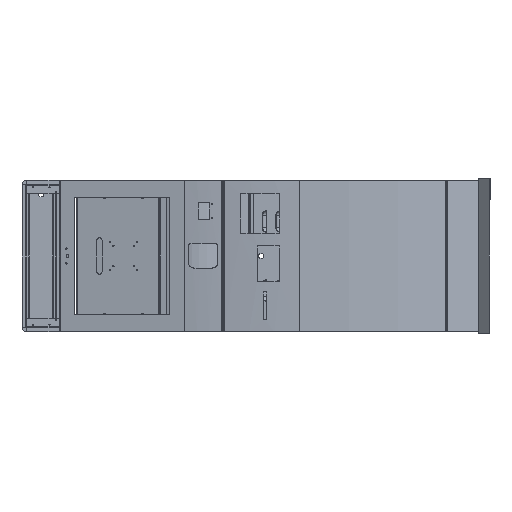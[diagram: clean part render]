
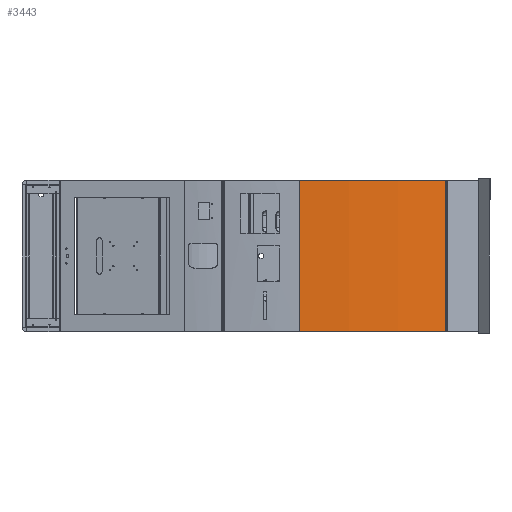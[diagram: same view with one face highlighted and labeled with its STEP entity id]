
A CAD part, left-side view. The second image highlights one B-rep face of the part: STEP entity #3443.
In plain terms, the highlighted cylindrical face has radius 1981.2 mm (diameter 3962.4 mm), a partial arc.
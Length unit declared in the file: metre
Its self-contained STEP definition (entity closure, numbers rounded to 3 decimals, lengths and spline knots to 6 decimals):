
#3443=ADVANCED_FACE('0:439780',(#9908),#9909,.T.);
#9908=FACE_OUTER_BOUND('',#20427,.T.);
#9909=CYLINDRICAL_SURFACE('',#20428,1.9812);
#20427=EDGE_LOOP('',(#44556,#44557,#44558,#44559));
#20428=AXIS2_PLACEMENT_3D('',#44560,#44561,#44562);
#44556=ORIENTED_EDGE('',*,*,#57486,.F.);
#44557=ORIENTED_EDGE('',*,*,#57487,.T.);
#44558=ORIENTED_EDGE('',*,*,#57488,.T.);
#44559=ORIENTED_EDGE('',*,*,#57489,.F.);
#44560=CARTESIAN_POINT('',(1.649017,-0.15168,-0.487578));
#44561=DIRECTION('',(0.0,0.0,-1.0));
#44562=DIRECTION('',(1.0,0.0,0.0));
#57486=EDGE_CURVE('',#70949,#70950,#70951,.T.);
#57487=EDGE_CURVE('0:439945',#70949,#70952,#70953,.T.);
#57488=EDGE_CURVE('0:440071',#70952,#70954,#70955,.T.);
#57489=EDGE_CURVE('0:439891',#70950,#70954,#70956,.T.);
#70949=VERTEX_POINT('',#93366);
#70950=VERTEX_POINT('',#93367);
#70951=LINE('',#93368,#93369);
#70952=VERTEX_POINT('',#93370);
#70953=CIRCLE('',#93371,1.9812);
#70954=VERTEX_POINT('',#93372);
#70955=LINE('',#93373,#93374);
#70956=CIRCLE('',#93375,1.9812);
#93366=CARTESIAN_POINT('',(-0.332183,-0.15168,-0.487578));
#93367=CARTESIAN_POINT('',(-0.332183,-0.15168,0.062422));
#93368=CARTESIAN_POINT('',(-0.332183,-0.15168,-0.212578));
#93369=VECTOR('',#108506,1.0);
#93370=CARTESIAN_POINT('',(-0.260742,-0.678911,-0.487578));
#93371=AXIS2_PLACEMENT_3D('',#108507,#108508,#108509);
#93372=CARTESIAN_POINT('',(-0.260742,-0.678911,0.062422));
#93373=CARTESIAN_POINT('',(-0.260742,-0.678911,-0.487578));
#93374=VECTOR('',#108510,1.0);
#93375=AXIS2_PLACEMENT_3D('',#108511,#108512,#108513);
#108506=DIRECTION('',(-0.0,-0.0,1.0));
#108507=CARTESIAN_POINT('',(1.649017,-0.15168,-0.487578));
#108508=DIRECTION('',(0.0,0.0,1.0));
#108509=DIRECTION('',(1.0,0.0,-0.0));
#108510=DIRECTION('',(0.0,0.0,1.0));
#108511=CARTESIAN_POINT('',(1.649017,-0.15168,0.062422));
#108512=DIRECTION('',(0.0,0.0,1.0));
#108513=DIRECTION('',(1.0,0.0,-0.0));
